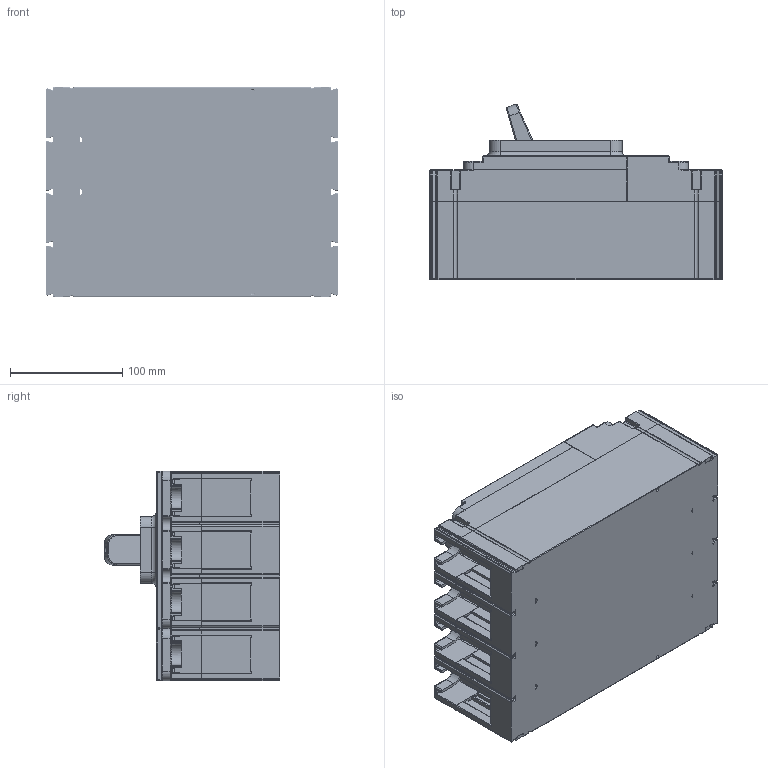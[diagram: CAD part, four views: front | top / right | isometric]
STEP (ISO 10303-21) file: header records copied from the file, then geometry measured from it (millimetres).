
FILE_DESCRIPTION((''),'2;1');
FILE_NAME('U6_4P_RSTN_630A_TOTAL_ASSY_ASM_ASM','2016-09-08T',('HHI'),(''),'PRO/ENGINEER BY PARAMETRIC TECHNOLOGY CORPORATION, 2012453','PRO/ENGINEER BY PARAMETRIC TECHNOLOGY CORPORATION, 2012453','');
FILE_SCHEMA(('CONFIG_CONTROL_DESIGN'));
Products named in the file (16): U6_4P_BASE; PRT0001; ASM0001_ASM; U6_4P_HANDLE_ASSY_ASM_ASM; U6_4P_MECHANISM_ASSY_ASM_ASM; U6_4P_MAIN_ASSY_ASM_ASM; U6_4P_RSTN_MAIN_TOTAL_ASSY_ASM_ASM; U6_4P_RSTN_630A_TOTAL_BASE_ASSY_ASM; U6_4P_RSTN_MAIN_COVER; U6_4P_RSTN_TRIP_COVER; PRT0014; PRT0015; ASM0011_ASM; ASM0010_ASM; U6_N_FRONT_COVER; U6_4P_RSTN_630A_TOTAL_ASSY_ASM_ASM
Assembly tree (15 placements, depth 8):
  U6_4P_RSTN_630A_TOTAL_ASSY_ASM_ASM
    U6_4P_RSTN_630A_TOTAL_BASE_ASSY_ASM
      U6_4P_BASE
      U6_4P_RSTN_MAIN_TOTAL_ASSY_ASM_ASM
        U6_4P_MAIN_ASSY_ASM_ASM
          U6_4P_MECHANISM_ASSY_ASM_ASM
            U6_4P_HANDLE_ASSY_ASM_ASM
              ASM0001_ASM
                PRT0001
    U6_4P_RSTN_MAIN_COVER
    U6_4P_RSTN_TRIP_COVER
    ASM0010_ASM
      ASM0011_ASM
        PRT0014
        PRT0015
    U6_N_FRONT_COVER
Bounding box: 260 x 155.99 x 186.5 mm (x, y, z)
Volume: 4540619.9 mm3; surface area: 508487.2 mm2
Topology: 7 solids, 31 shells, 5352 faces, 13809 edges, 8142 vertices
Faces by surface type: cylinder 2254, plane 1551, torus 577, sphere 547, bspline 282, cone 122, extrusion 19
Entity records: 184250 total; most frequent: CARTESIAN_POINT 55170, DIRECTION 28451, ORIENTED_EDGE 26626, EDGE_CURVE 13313, AXIS2_PLACEMENT_3D 11070, VERTEX_POINT 8142, VECTOR 6311, LINE 6292
